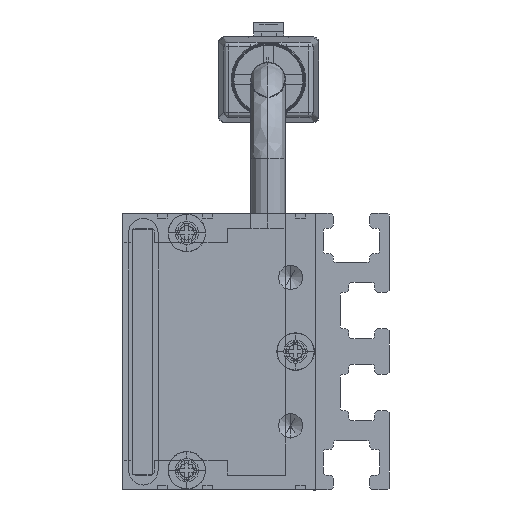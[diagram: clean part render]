
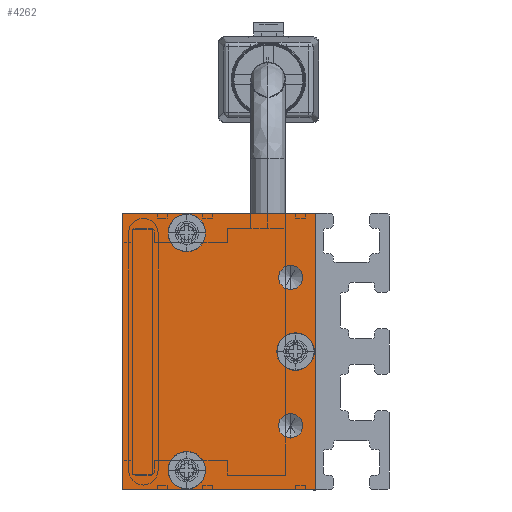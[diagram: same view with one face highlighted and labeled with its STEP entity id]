
A CAD part, left-side view. The second image highlights one B-rep face of the part: STEP entity #4262.
In plain terms, the highlighted planar face has unit normal (-1, 0, 0) as drawn and (0, 0, -1) by its records, which use the part's own axes.
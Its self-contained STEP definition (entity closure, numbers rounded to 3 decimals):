
#13 = DIRECTION ( 'NONE',  ( -1., 0., 0. ) ) ;
#44 = CIRCLE ( 'NONE', #4356, 1.9 ) ;
#140 = VERTEX_POINT ( 'NONE', #265 ) ;
#141 = DIRECTION ( 'NONE',  ( 0., -1., 0. ) ) ;
#265 = CARTESIAN_POINT ( 'NONE',  ( -8.75, 2.5, -2.5 ) ) ;
#416 = VERTEX_POINT ( 'NONE', #13233 ) ;
#518 = CIRCLE ( 'NONE', #8687, 1.25 ) ;
#550 = ORIENTED_EDGE ( 'NONE', *, *, #7397, .F. ) ;
#569 = CARTESIAN_POINT ( 'NONE',  ( 14., 19.5, -2.5 ) ) ;
#619 = CARTESIAN_POINT ( 'NONE',  ( -12., 13., -2.5 ) ) ;
#731 = CARTESIAN_POINT ( 'NONE',  ( 13.9, 13., -2.5 ) ) ;
#880 = AXIS2_PLACEMENT_3D ( 'NONE', #619, #3901, #8225 ) ;
#887 = CARTESIAN_POINT ( 'NONE',  ( 10.1, 13., -2.5 ) ) ;
#948 = FACE_BOUND ( 'NONE', #8529, .T. ) ;
#980 = DIRECTION ( 'NONE',  ( -1., 0., 0. ) ) ;
#1020 = PLANE ( 'NONE',  #2026 ) ;
#1036 = DIRECTION ( 'NONE',  ( 0., 0., -1. ) ) ;
#1215 = EDGE_LOOP ( 'NONE', ( #12437, #5813 ) ) ;
#1283 = CARTESIAN_POINT ( 'NONE',  ( 1.9, 2., -2.5 ) ) ;
#1450 = DIRECTION ( 'NONE',  ( 0., 0., -1. ) ) ;
#1457 = VERTEX_POINT ( 'NONE', #11605 ) ;
#1516 = DIRECTION ( 'NONE',  ( -1., 0., 0. ) ) ;
#1687 = VERTEX_POINT ( 'NONE', #7859 ) ;
#1707 = DIRECTION ( 'NONE',  ( -1., 0., 0. ) ) ;
#1783 = FACE_OUTER_BOUND ( 'NONE', #2288, .T. ) ;
#1856 = EDGE_LOOP ( 'NONE', ( #6138, #9649 ) ) ;
#1924 = DIRECTION ( 'NONE',  ( 0., 0., -1. ) ) ;
#2026 = AXIS2_PLACEMENT_3D ( 'NONE', #6135, #6212, #9598 ) ;
#2109 = CARTESIAN_POINT ( 'NONE',  ( -14., 0., -2.5 ) ) ;
#2145 = VERTEX_POINT ( 'NONE', #13067 ) ;
#2207 = VERTEX_POINT ( 'NONE', #1283 ) ;
#2210 = ORIENTED_EDGE ( 'NONE', *, *, #13490, .F. ) ;
#2221 = EDGE_CURVE ( 'NONE', #11826, #416, #518, .T. ) ;
#2288 = EDGE_LOOP ( 'NONE', ( #10277, #550, #12945, #2210 ) ) ;
#2645 = ORIENTED_EDGE ( 'NONE', *, *, #6556, .F. ) ;
#2678 = DIRECTION ( 'NONE',  ( 0., 0., -1. ) ) ;
#2725 = ORIENTED_EDGE ( 'NONE', *, *, #10855, .F. ) ;
#2849 = CARTESIAN_POINT ( 'NONE',  ( -7.5, 2.5, -2.5 ) ) ;
#2943 = DIRECTION ( 'NONE',  ( 0., 0., -1. ) ) ;
#3093 = DIRECTION ( 'NONE',  ( 0., 0., -1. ) ) ;
#3121 = VERTEX_POINT ( 'NONE', #731 ) ;
#3171 = CARTESIAN_POINT ( 'NONE',  ( 14., 0., -2.5 ) ) ;
#3379 = CIRCLE ( 'NONE', #880, 1.9 ) ;
#3600 = ORIENTED_EDGE ( 'NONE', *, *, #9443, .F. ) ;
#3813 = AXIS2_PLACEMENT_3D ( 'NONE', #9541, #1036, #9678 ) ;
#3901 = DIRECTION ( 'NONE',  ( 0., 0., -1. ) ) ;
#4104 = CARTESIAN_POINT ( 'NONE',  ( 12., 13., -2.5 ) ) ;
#4262 = ADVANCED_FACE ( 'NONE', ( #10727, #5214, #6429, #11505, #948, #1783 ), #1020, .T. ) ;
#4356 = AXIS2_PLACEMENT_3D ( 'NONE', #8088, #2678, #4618 ) ;
#4570 = AXIS2_PLACEMENT_3D ( 'NONE', #11237, #1450, #1516 ) ;
#4618 = DIRECTION ( 'NONE',  ( -1., 0., 0. ) ) ;
#4770 = VECTOR ( 'NONE', #14027, 1000. ) ;
#4815 = CARTESIAN_POINT ( 'NONE',  ( 0., 2., -2.5 ) ) ;
#4848 = DIRECTION ( 'NONE',  ( -1., 0., 0. ) ) ;
#4988 = CIRCLE ( 'NONE', #10177, 1.25 ) ;
#5036 = CARTESIAN_POINT ( 'NONE',  ( -14., 19.5, -2.5 ) ) ;
#5077 = VERTEX_POINT ( 'NONE', #5110 ) ;
#5110 = CARTESIAN_POINT ( 'NONE',  ( -10.1, 13., -2.5 ) ) ;
#5155 = EDGE_CURVE ( 'NONE', #13792, #5077, #3379, .T. ) ;
#5201 = VERTEX_POINT ( 'NONE', #2109 ) ;
#5214 = FACE_BOUND ( 'NONE', #5467, .T. ) ;
#5274 = AXIS2_PLACEMENT_3D ( 'NONE', #4815, #2943, #11526 ) ;
#5435 = VECTOR ( 'NONE', #7253, 1000. ) ;
#5467 = EDGE_LOOP ( 'NONE', ( #5690, #2725 ) ) ;
#5690 = ORIENTED_EDGE ( 'NONE', *, *, #5155, .F. ) ;
#5813 = ORIENTED_EDGE ( 'NONE', *, *, #13532, .F. ) ;
#5853 = CARTESIAN_POINT ( 'NONE',  ( 14., 19.5, -2.5 ) ) ;
#5903 = CARTESIAN_POINT ( 'NONE',  ( 8.75, 2.5, -2.5 ) ) ;
#6089 = ORIENTED_EDGE ( 'NONE', *, *, #9335, .F. ) ;
#6135 = CARTESIAN_POINT ( 'NONE',  ( 0., 0., -2.5 ) ) ;
#6138 = ORIENTED_EDGE ( 'NONE', *, *, #6777, .F. ) ;
#6166 = LINE ( 'NONE', #5036, #12150 ) ;
#6212 = DIRECTION ( 'NONE',  ( 0., 0., -1. ) ) ;
#6333 = CARTESIAN_POINT ( 'NONE',  ( -14., 0., -2.5 ) ) ;
#6429 = FACE_BOUND ( 'NONE', #7485, .T. ) ;
#6556 = EDGE_CURVE ( 'NONE', #140, #1687, #10840, .T. ) ;
#6563 = AXIS2_PLACEMENT_3D ( 'NONE', #2849, #1924, #1707 ) ;
#6602 = LINE ( 'NONE', #3171, #4770 ) ;
#6656 = VECTOR ( 'NONE', #141, 1000. ) ;
#6777 = EDGE_CURVE ( 'NONE', #416, #11826, #4988, .T. ) ;
#6968 = EDGE_CURVE ( 'NONE', #1457, #11489, #8236, .T. ) ;
#7253 = DIRECTION ( 'NONE',  ( 0., 1., 0. ) ) ;
#7354 = VERTEX_POINT ( 'NONE', #12394 ) ;
#7385 = CARTESIAN_POINT ( 'NONE',  ( -7.5, 2.5, -2.5 ) ) ;
#7397 = EDGE_CURVE ( 'NONE', #5201, #1457, #6602, .T. ) ;
#7485 = EDGE_LOOP ( 'NONE', ( #3600, #6089 ) ) ;
#7541 = LINE ( 'NONE', #6333, #6656 ) ;
#7830 = DIRECTION ( 'NONE',  ( 0., 0., -1. ) ) ;
#7859 = CARTESIAN_POINT ( 'NONE',  ( -6.25, 2.5, -2.5 ) ) ;
#8061 = CARTESIAN_POINT ( 'NONE',  ( -13.9, 13., -2.5 ) ) ;
#8088 = CARTESIAN_POINT ( 'NONE',  ( 12., 13., -2.5 ) ) ;
#8094 = CIRCLE ( 'NONE', #9430, 1.9 ) ;
#8225 = DIRECTION ( 'NONE',  ( -1., 0., 0. ) ) ;
#8236 = LINE ( 'NONE', #569, #5435 ) ;
#8529 = EDGE_LOOP ( 'NONE', ( #2645, #10425 ) ) ;
#8674 = CIRCLE ( 'NONE', #5274, 1.9 ) ;
#8687 = AXIS2_PLACEMENT_3D ( 'NONE', #8881, #7830, #13 ) ;
#8766 = AXIS2_PLACEMENT_3D ( 'NONE', #7385, #10836, #12827 ) ;
#8881 = CARTESIAN_POINT ( 'NONE',  ( 7.5, 2.5, -2.5 ) ) ;
#8938 = EDGE_CURVE ( 'NONE', #9476, #3121, #44, .T. ) ;
#9335 = EDGE_CURVE ( 'NONE', #2207, #2145, #8674, .T. ) ;
#9430 = AXIS2_PLACEMENT_3D ( 'NONE', #4104, #3093, #980 ) ;
#9443 = EDGE_CURVE ( 'NONE', #2145, #2207, #9464, .T. ) ;
#9464 = CIRCLE ( 'NONE', #3813, 1.9 ) ;
#9476 = VERTEX_POINT ( 'NONE', #887 ) ;
#9541 = CARTESIAN_POINT ( 'NONE',  ( 0., 2., -2.5 ) ) ;
#9598 = DIRECTION ( 'NONE',  ( -1., 0., 0. ) ) ;
#9649 = ORIENTED_EDGE ( 'NONE', *, *, #2221, .F. ) ;
#9678 = DIRECTION ( 'NONE',  ( -1., 0., 0. ) ) ;
#10011 = DIRECTION ( 'NONE',  ( 0., 0., -1. ) ) ;
#10177 = AXIS2_PLACEMENT_3D ( 'NONE', #11216, #10011, #4848 ) ;
#10196 = DIRECTION ( 'NONE',  ( -1., 0., 0. ) ) ;
#10277 = ORIENTED_EDGE ( 'NONE', *, *, #6968, .F. ) ;
#10425 = ORIENTED_EDGE ( 'NONE', *, *, #13102, .F. ) ;
#10563 = EDGE_CURVE ( 'NONE', #7354, #5201, #7541, .T. ) ;
#10727 = FACE_BOUND ( 'NONE', #1215, .T. ) ;
#10836 = DIRECTION ( 'NONE',  ( 0., 0., -1. ) ) ;
#10840 = CIRCLE ( 'NONE', #6563, 1.25 ) ;
#10855 = EDGE_CURVE ( 'NONE', #5077, #13792, #13174, .T. ) ;
#11216 = CARTESIAN_POINT ( 'NONE',  ( 7.5, 2.5, -2.5 ) ) ;
#11237 = CARTESIAN_POINT ( 'NONE',  ( -12., 13., -2.5 ) ) ;
#11489 = VERTEX_POINT ( 'NONE', #5853 ) ;
#11505 = FACE_BOUND ( 'NONE', #1856, .T. ) ;
#11526 = DIRECTION ( 'NONE',  ( -1., 0., 0. ) ) ;
#11605 = CARTESIAN_POINT ( 'NONE',  ( 14., 0., -2.5 ) ) ;
#11826 = VERTEX_POINT ( 'NONE', #5903 ) ;
#12150 = VECTOR ( 'NONE', #10196, 1000. ) ;
#12394 = CARTESIAN_POINT ( 'NONE',  ( -14., 19.5, -2.5 ) ) ;
#12437 = ORIENTED_EDGE ( 'NONE', *, *, #8938, .F. ) ;
#12827 = DIRECTION ( 'NONE',  ( -1., 0., 0. ) ) ;
#12945 = ORIENTED_EDGE ( 'NONE', *, *, #10563, .F. ) ;
#13067 = CARTESIAN_POINT ( 'NONE',  ( -1.9, 2., -2.5 ) ) ;
#13102 = EDGE_CURVE ( 'NONE', #1687, #140, #13284, .T. ) ;
#13174 = CIRCLE ( 'NONE', #4570, 1.9 ) ;
#13233 = CARTESIAN_POINT ( 'NONE',  ( 6.25, 2.5, -2.5 ) ) ;
#13284 = CIRCLE ( 'NONE', #8766, 1.25 ) ;
#13490 = EDGE_CURVE ( 'NONE', #11489, #7354, #6166, .T. ) ;
#13532 = EDGE_CURVE ( 'NONE', #3121, #9476, #8094, .T. ) ;
#13792 = VERTEX_POINT ( 'NONE', #8061 ) ;
#14027 = DIRECTION ( 'NONE',  ( 1., 0., 0. ) ) ;
